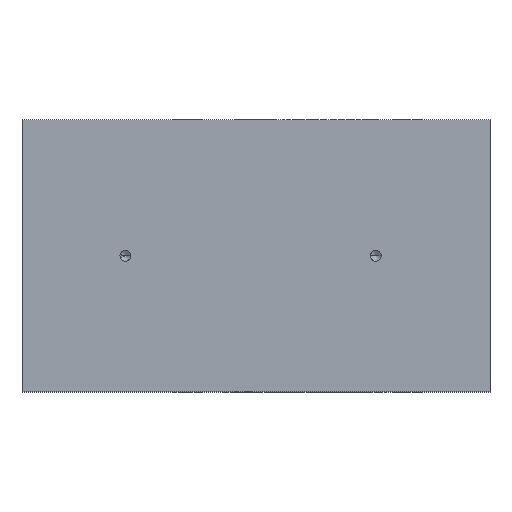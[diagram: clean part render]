
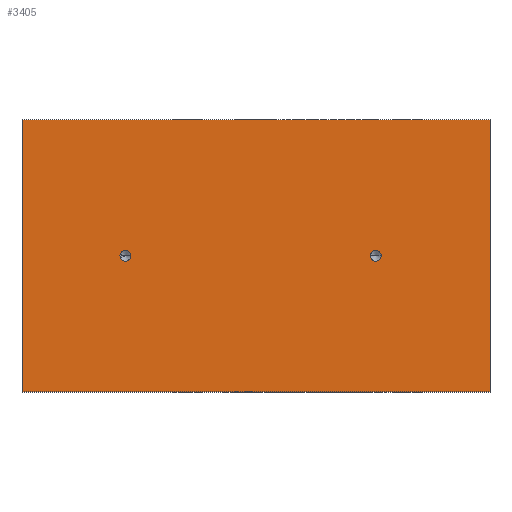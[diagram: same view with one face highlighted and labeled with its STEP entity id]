
A CAD part, top view. The second image highlights one B-rep face of the part: STEP entity #3405.
In plain terms, the highlighted planar face has unit normal (0, 0, 1).
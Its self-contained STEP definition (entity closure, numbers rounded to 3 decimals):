
#42=DIRECTION('',(0.,-1.,0.));
#43=VECTOR('',#42,50.);
#44=CARTESIAN_POINT('',(0.,50.,0.));
#45=LINE('',#44,#43);
#65=DIRECTION('',(1.,0.,0.));
#66=VECTOR('',#65,86.);
#67=CARTESIAN_POINT('',(0.,0.,0.));
#68=LINE('',#67,#66);
#216=DIRECTION('',(1.,0.,0.));
#217=VECTOR('',#216,86.);
#218=CARTESIAN_POINT('',(0.,50.,0.));
#219=LINE('',#218,#217);
#223=CARTESIAN_POINT('',(19.,25.,0.));
#224=DIRECTION('',(0.,0.,1.));
#225=DIRECTION('',(-1.,0.,0.));
#226=AXIS2_PLACEMENT_3D('',#223,#224,#225);
#231=CARTESIAN_POINT('',(19.,25.,0.));
#232=DIRECTION('',(0.,0.,1.));
#233=DIRECTION('',(1.,0.,0.));
#234=AXIS2_PLACEMENT_3D('',#231,#232,#233);
#239=CARTESIAN_POINT('',(65.,25.,0.));
#240=DIRECTION('',(0.,0.,1.));
#241=DIRECTION('',(-1.,0.,0.));
#242=AXIS2_PLACEMENT_3D('',#239,#240,#241);
#247=CARTESIAN_POINT('',(65.,25.,0.));
#248=DIRECTION('',(0.,0.,1.));
#249=DIRECTION('',(1.,0.,0.));
#250=AXIS2_PLACEMENT_3D('',#247,#248,#249);
#429=DIRECTION('',(0.,-1.,0.));
#430=VECTOR('',#429,50.);
#431=CARTESIAN_POINT('',(86.,50.,0.));
#432=LINE('',#431,#430);
#2971=CARTESIAN_POINT('',(0.,0.,0.));
#2973=VERTEX_POINT('',#2971);
#2977=CARTESIAN_POINT('',(0.,50.,0.));
#2978=VERTEX_POINT('',#2977);
#2979=CARTESIAN_POINT('',(86.,0.,0.));
#2981=VERTEX_POINT('',#2979);
#2985=CARTESIAN_POINT('',(86.,50.,0.));
#2986=VERTEX_POINT('',#2985);
#3156=CARTESIAN_POINT('',(18.,25.,0.));
#3157=CARTESIAN_POINT('',(20.,25.,0.));
#3158=VERTEX_POINT('',#3156);
#3159=VERTEX_POINT('',#3157);
#3166=CARTESIAN_POINT('',(64.,25.,0.));
#3167=CARTESIAN_POINT('',(66.,25.,0.));
#3168=VERTEX_POINT('',#3166);
#3169=VERTEX_POINT('',#3167);
#3380=CARTESIAN_POINT('',(0.,50.,0.));
#3381=DIRECTION('',(0.,0.,1.));
#3382=DIRECTION('',(0.,-1.,0.));
#3383=AXIS2_PLACEMENT_3D('',#3380,#3381,#3382);
#3384=PLANE('',#3383);
#3385=ORIENTED_EDGE('',*,*,#3276,.F.);
#3387=ORIENTED_EDGE('',*,*,#3386,.T.);
#3389=ORIENTED_EDGE('',*,*,#3388,.T.);
#3390=ORIENTED_EDGE('',*,*,#3305,.F.);
#3391=EDGE_LOOP('',(#3385,#3387,#3389,#3390));
#3392=FACE_OUTER_BOUND('',#3391,.F.);
#3394=ORIENTED_EDGE('',*,*,#3393,.T.);
#3396=ORIENTED_EDGE('',*,*,#3395,.T.);
#3397=EDGE_LOOP('',(#3394,#3396));
#3398=FACE_BOUND('',#3397,.F.);
#3400=ORIENTED_EDGE('',*,*,#3399,.T.);
#3402=ORIENTED_EDGE('',*,*,#3401,.T.);
#3403=EDGE_LOOP('',(#3400,#3402));
#3404=FACE_BOUND('',#3403,.F.);
#227=CIRCLE('',#226,1.);
#235=CIRCLE('',#234,1.);
#243=CIRCLE('',#242,1.);
#251=CIRCLE('',#250,1.);
#3276=EDGE_CURVE('',#2978,#2973,#45,.T.);
#3305=EDGE_CURVE('',#2973,#2981,#68,.T.);
#3386=EDGE_CURVE('',#2978,#2986,#219,.T.);
#3388=EDGE_CURVE('',#2986,#2981,#432,.T.);
#3393=EDGE_CURVE('',#3158,#3159,#227,.T.);
#3395=EDGE_CURVE('',#3159,#3158,#235,.T.);
#3399=EDGE_CURVE('',#3168,#3169,#243,.T.);
#3401=EDGE_CURVE('',#3169,#3168,#251,.T.);
#3405=ADVANCED_FACE('',(#3392,#3398,#3404),#3384,.T.);
